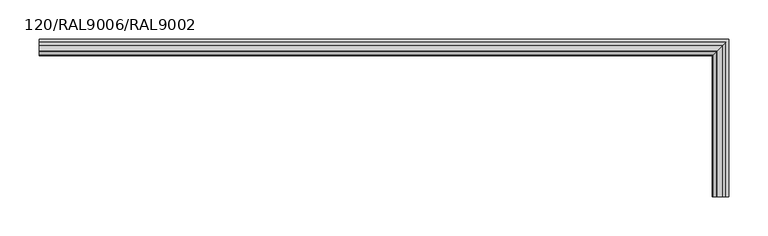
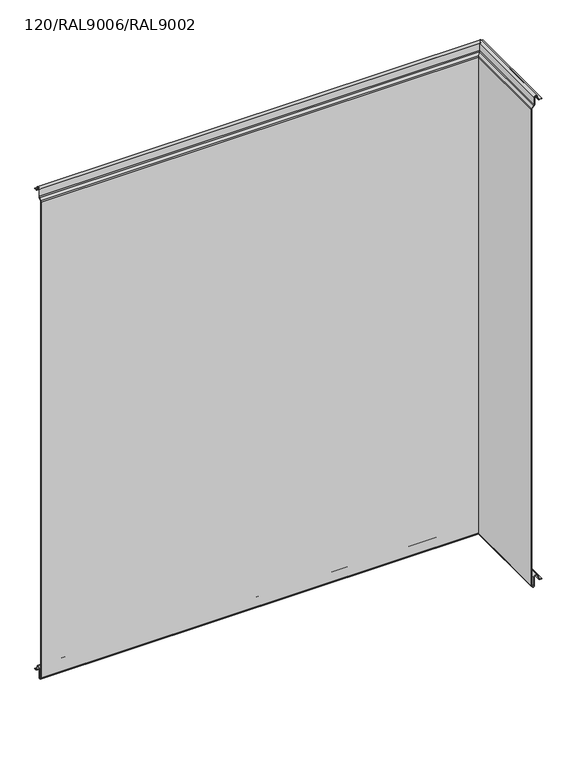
"""IFC4 building model written with IfcOpenShell, lengths in millimetres: plate geometry, TR_C_H_FTV_Corner_Tr_A : 120/RAL9006/RAL9002."""

from ifc_helpers import new_model, si_unit, frame, origin, place, context, project, spatial, polyline, circle_curve, ellipse_curve, source, transform, mapped, element, save
from ifc_brep_helpers import plane_surface, cylinder_surface, revolved_surface, advanced_brep


def plate_120_ral9006_ral9002_a21c830a(model_context):
    return source(origin(), model_context, "Body", "AdvancedBrep", [
        advanced_brep(
        [(391.0, -300.0, 1000.6000012), (386.8869672, -300.0, 1000.6000012), (383.1939382, -300.0, 1003.6988205), (382.4506252, -300.0, 1007.9143577), (376.0, -300.0, 1007.3500012), (376.0, -300.0, 992.6000012), (375.267767, -300.0, 990.8322342), (370.8786797, -300.0, 986.4431469), (370.0, -300.0, 984.3218266), (370.0, -300.0, -5.018628), (370.8054564, -300.0, -6.9631716), (372.6711418, -300.0, -8.8288571), (376.0, -300.0, -7.4499988), (376.0, -300.0, 10.1500012), (382.8475867, -300.0, 10.7490874), (383.914412, -300.0, 4.6988205), (387.6074411, -300.0, 1.6000012), (391.0, -300.0, 1.6000012), (391.0, -300.0, 2.4000012), (387.6074411, -300.0, 2.4000012), (384.7022582, -300.0, 4.837739), (383.635433, -300.0, 10.8880059), (375.2, -300.0, 10.1500012), (375.2, -300.0, -7.4499988), (373.2368272, -300.0, -8.2631716), (371.3711418, -300.0, -6.3974862), (370.8, -300.0, -5.018628), (370.8, -300.0, 984.3218266), (371.4443651, -300.0, 985.8774615), (375.8334524, -300.0, 990.2665488), (376.8, -300.0, 992.6000012), (376.8, -300.0, 1007.3500012), (381.662779, -300.0, 1007.7754392), (382.4060919, -300.0, 1003.559902), (386.8869672, -300.0, 999.8000012), (391.0, -300.0, 999.8000012), (383.1939382, -106.8060618, 1003.6988205), (386.8869672, -103.1130328, 1000.6000012), (-490.0, -103.1130328, 1000.6000012), (-490.0, -106.8060618, 1003.6988205), (382.4506252, -107.5493748, 1007.9143577), (-490.0, -107.5493748, 1007.9143577), (376.0, -114.0, 1007.3500012), (-490.0, -114.0, 1007.3500012), (376.0, -114.0, 992.6000012), (-490.0, -114.0, 992.6000012), (375.267767, -114.732233, 990.8322342), (-490.0, -114.732233, 990.8322342), (370.8786797, -119.1213203, 986.4431469), (-490.0, -119.1213203, 986.4431469), (370.0, -120.0, 984.3218266), (-490.0, -120.0, 984.3218266), (370.0, -120.0, -5.018628), (-490.0, -120.0, -5.018628), (370.8054564, -119.1945436, -6.9631716), (-490.0, -119.1945436, -6.9631716), (372.6711418, -117.3288582, -8.8288571), (-490.0, -117.3288582, -8.8288571), (376.0, -114.0, -7.4499988), (-490.0, -114.0, -7.4499988), (376.0, -114.0, 10.1500012), (-490.0, -114.0, 10.1500012), (382.8475867, -107.1524133, 10.7490874), (-490.0, -107.1524133, 10.7490874), (383.914412, -106.085588, 4.6988205), (-490.0, -106.085588, 4.6988205), (387.6074411, -102.3925589, 1.6000012), (-490.0, -102.3925589, 1.6000012), (391.0, -99.0, 2.4000012), (391.0, -99.0, 1.6000012), (-490.0, -99.0, 1.6000012), (-490.0, -99.0, 2.4000012), (384.7022582, -105.2977418, 4.837739), (387.6074411, -102.3925589, 2.4000012), (-490.0, -102.3925589, 2.4000012), (-490.0, -105.2977418, 4.837739), (383.635433, -106.364567, 10.8880059), (-490.0, -106.364567, 10.8880059), (375.2, -114.8, 10.1500012), (-490.0, -114.8, 10.1500012), (375.2, -114.8, -7.4499988), (-490.0, -114.8, -7.4499988), (373.2368272, -116.7631728, -8.2631716), (-490.0, -116.7631728, -8.2631716), (371.3711418, -118.6288582, -6.3974862), (-490.0, -118.6288582, -6.3974862), (370.8, -119.2, -5.018628), (-490.0, -119.2, -5.018628), (370.8, -119.2, 984.3218266), (-490.0, -119.2, 984.3218266), (371.4443651, -118.5556349, 985.8774615), (-490.0, -118.5556349, 985.8774615), (375.8334524, -114.1665476, 990.2665488), (-490.0, -114.1665476, 990.2665488), (376.8, -113.2, 992.6000012), (-490.0, -113.2, 992.6000012), (376.8, -113.2, 1007.3500012), (-490.0, -113.2, 1007.3500012), (381.662779, -108.337221, 1007.7754392), (-490.0, -108.337221, 1007.7754392), (382.4060919, -107.5939081, 1003.559902), (-490.0, -107.5939081, 1003.559902), (386.8869672, -103.1130328, 999.8000012), (-490.0, -103.1130328, 999.8000012), (391.0, -99.0, 1000.6000012), (391.0, -99.0, 999.8000012), (-490.0, -99.0, 999.8000012), (-490.0, -99.0, 1000.6000012)],
        [
            (0, 1),
            (1, 2, circle_curve(frame((386.8869672, -300.0, 1004.3500012), z_axis=(0.0, 1.0, 0.0), x_axis=(-1.0, 0.0, 0.0)), 3.75)),
            (2, 3),
            (3, 4, circle_curve(frame((379.25, -300.0, 1007.3500012), z_axis=(0.0, -1.0, 0.0), x_axis=(-1.0, 0.0, 0.0)), 3.25)),
            (4, 5),
            (5, 6, circle_curve(frame((373.5, -300.0, 992.6000012), z_axis=(0.0, 1.0, 0.0), x_axis=(-1.0, 0.0, 0.0)), 2.5)),
            (6, 7),
            (7, 8, circle_curve(frame((373.0, -300.0, 984.3218266), z_axis=(0.0, -1.0, 0.0), x_axis=(-1.0, 0.0, 0.0)), 3.0)),
            (8, 9),
            (9, 10, circle_curve(frame((372.75, -300.0, -5.018628), z_axis=(0.0, -1.0, 0.0), x_axis=(-1.0, 0.0, 0.0)), 2.75)),
            (10, 11),
            (11, 12, circle_curve(frame((374.05, -300.0, -7.4499988), z_axis=(0.0, -1.0, 0.0), x_axis=(-1.0, 0.0, 0.0)), 1.95)),
            (12, 13),
            (13, 14, circle_curve(frame((379.45, -300.0, 10.1500012), z_axis=(0.0, 1.0, 0.0), x_axis=(-1.0, 0.0, 0.0)), 3.45)),
            (14, 15),
            (15, 16, circle_curve(frame((387.6074411, -300.0, 5.3500012), z_axis=(0.0, -1.0, 0.0), x_axis=(-1.0, 0.0, 0.0)), 3.75)),
            (16, 17),
            (17, 18),
            (18, 19),
            (19, 20, circle_curve(frame((387.6074411, -300.0, 5.3500012), z_axis=(0.0, 1.0, 0.0), x_axis=(-1.0, 0.0, 0.0)), 2.95)),
            (20, 21),
            (21, 22, circle_curve(frame((379.45, -300.0, 10.1500012), z_axis=(0.0, -1.0, 0.0), x_axis=(-1.0, 0.0, 0.0)), 4.25)),
            (22, 23),
            (23, 24, circle_curve(frame((374.05, -300.0, -7.4499988), z_axis=(0.0, 1.0, 0.0), x_axis=(-1.0, 0.0, 0.0)), 1.15)),
            (24, 25),
            (25, 26, circle_curve(frame((372.75, -300.0, -5.018628), z_axis=(0.0, 1.0, 0.0), x_axis=(-1.0, 0.0, 0.0)), 1.95)),
            (26, 27),
            (27, 28, circle_curve(frame((373.0, -300.0, 984.3218266), z_axis=(0.0, 1.0, 0.0), x_axis=(-1.0, 0.0, 0.0)), 2.2)),
            (28, 29),
            (29, 30, circle_curve(frame((373.5, -300.0, 992.6000012), z_axis=(0.0, -1.0, 0.0), x_axis=(-1.0, 0.0, 0.0)), 3.3)),
            (30, 31),
            (31, 32, circle_curve(frame((379.25, -300.0, 1007.3500012), z_axis=(0.0, 1.0, 0.0), x_axis=(-1.0, 0.0, 0.0)), 2.45)),
            (32, 33),
            (33, 34, circle_curve(frame((386.8869672, -300.0, 1004.3500012), z_axis=(0.0, -1.0, 0.0), x_axis=(-1.0, 0.0, 0.0)), 4.55)),
            (34, 35),
            (35, 0),
            (36, 37, ellipse_curve(frame((386.8869672, -103.1130328, 1004.3500012), z_axis=(0.7071067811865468, -0.7071067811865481, 0.0), x_axis=(-0.7071067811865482, -0.7071067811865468, 0.0)), 5.3033009, 3.75)),
            (37, 38),
            (38, 39, circle_curve(frame((-490.0, -103.1130328, 1004.3500012), z_axis=(-1.0, 0.0, 0.0), x_axis=(0.0, -1.0, 0.0)), 3.75)),
            (39, 36),
            (40, 36),
            (39, 41),
            (41, 40),
            (42, 40, ellipse_curve(frame((379.25, -110.75, 1007.3500012), z_axis=(-0.7071067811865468, 0.7071067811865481, 0.0), x_axis=(0.7071067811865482, 0.7071067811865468, 0.0)), 4.5961941, 3.25)),
            (41, 43, circle_curve(frame((-490.0, -110.75, 1007.3500012), z_axis=(1.0, 0.0, 0.0), x_axis=(0.0, -1.0, 0.0)), 3.25)),
            (43, 42),
            (44, 42),
            (43, 45),
            (45, 44),
            (46, 44, ellipse_curve(frame((373.5, -116.5, 992.6000012), z_axis=(0.7071067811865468, -0.7071067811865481, 0.0), x_axis=(-0.7071067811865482, -0.7071067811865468, 0.0)), 3.5355339, 2.5)),
            (45, 47, circle_curve(frame((-490.0, -116.5, 992.6000012), z_axis=(-1.0, 0.0, 0.0), x_axis=(0.0, -1.0, 0.0)), 2.5)),
            (47, 46),
            (48, 46),
            (47, 49),
            (49, 48),
            (50, 48, ellipse_curve(frame((373.0, -117.0, 984.3218266), z_axis=(-0.7071067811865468, 0.7071067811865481, 0.0), x_axis=(0.7071067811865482, 0.7071067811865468, 0.0)), 4.2426407, 3.0)),
            (49, 51, circle_curve(frame((-490.0, -117.0, 984.3218266), z_axis=(1.0, 0.0, 0.0), x_axis=(0.0, -1.0, 0.0)), 3.0)),
            (51, 50),
            (52, 50),
            (51, 53),
            (53, 52),
            (54, 52, ellipse_curve(frame((372.75, -117.25, -5.018628), z_axis=(-0.7071067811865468, 0.7071067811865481, 0.0), x_axis=(0.7071067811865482, 0.7071067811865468, 0.0)), 3.8890873, 2.75)),
            (53, 55, circle_curve(frame((-490.0, -117.25, -5.018628), z_axis=(1.0, 0.0, 0.0), x_axis=(0.0, -1.0, 0.0)), 2.75)),
            (55, 54),
            (56, 54),
            (55, 57),
            (57, 56),
            (58, 56, ellipse_curve(frame((374.05, -115.95, -7.4499988), z_axis=(-0.7071067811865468, 0.7071067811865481, 0.0), x_axis=(0.7071067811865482, 0.7071067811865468, 0.0)), 2.7577164, 1.95)),
            (57, 59, circle_curve(frame((-490.0, -115.95, -7.4499988), z_axis=(1.0, 0.0, 0.0), x_axis=(0.0, -1.0, 0.0)), 1.95)),
            (59, 58),
            (60, 58),
            (59, 61),
            (61, 60),
            (62, 60, ellipse_curve(frame((379.45, -110.55, 10.1500012), z_axis=(0.7071067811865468, -0.7071067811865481, 0.0), x_axis=(-0.7071067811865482, -0.7071067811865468, 0.0)), 4.8790368, 3.45)),
            (61, 63, circle_curve(frame((-490.0, -110.55, 10.1500012), z_axis=(-1.0, 0.0, 0.0), x_axis=(0.0, -1.0, 0.0)), 3.45)),
            (63, 62),
            (64, 62),
            (63, 65),
            (65, 64),
            (66, 64, ellipse_curve(frame((387.6074411, -102.3925589, 5.3500012), z_axis=(-0.7071067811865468, 0.7071067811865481, 0.0), x_axis=(0.7071067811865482, 0.7071067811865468, 0.0)), 5.3033009, 3.75)),
            (65, 67, circle_curve(frame((-490.0, -102.3925589, 5.3500012), z_axis=(1.0, 0.0, 0.0), x_axis=(0.0, -1.0, 0.0)), 3.75)),
            (67, 66),
            (68, 69),
            (69, 70),
            (70, 71),
            (71, 68),
            (72, 73, ellipse_curve(frame((387.6074411, -102.3925589, 5.3500012), z_axis=(0.7071067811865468, -0.7071067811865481, 0.0), x_axis=(-0.7071067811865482, -0.7071067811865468, 0.0)), 4.17193, 2.95)),
            (73, 74),
            (74, 75, circle_curve(frame((-490.0, -102.3925589, 5.3500012), z_axis=(-1.0, 0.0, 0.0), x_axis=(0.0, -1.0, 0.0)), 2.95)),
            (75, 72),
            (76, 72),
            (75, 77),
            (77, 76),
            (78, 76, ellipse_curve(frame((379.45, -110.55, 10.1500012), z_axis=(-0.7071067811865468, 0.7071067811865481, 0.0), x_axis=(0.7071067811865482, 0.7071067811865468, 0.0)), 6.0104076, 4.25)),
            (77, 79, circle_curve(frame((-490.0, -110.55, 10.1500012), z_axis=(1.0, 0.0, 0.0), x_axis=(0.0, -1.0, 0.0)), 4.25)),
            (79, 78),
            (80, 78),
            (79, 81),
            (81, 80),
            (82, 80, ellipse_curve(frame((374.05, -115.95, -7.4499988), z_axis=(0.7071067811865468, -0.7071067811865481, 0.0), x_axis=(-0.7071067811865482, -0.7071067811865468, 0.0)), 1.6263456, 1.15)),
            (81, 83, circle_curve(frame((-490.0, -115.95, -7.4499988), z_axis=(-1.0, 0.0, 0.0), x_axis=(0.0, -1.0, 0.0)), 1.15)),
            (83, 82),
            (84, 82),
            (83, 85),
            (85, 84),
            (86, 84, ellipse_curve(frame((372.75, -117.25, -5.018628), z_axis=(0.7071067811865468, -0.7071067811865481, 0.0), x_axis=(-0.7071067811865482, -0.7071067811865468, 0.0)), 2.7577164, 1.95)),
            (85, 87, circle_curve(frame((-490.0, -117.25, -5.018628), z_axis=(-1.0, 0.0, 0.0), x_axis=(0.0, -1.0, 0.0)), 1.95)),
            (87, 86),
            (88, 86),
            (87, 89),
            (89, 88),
            (90, 88, ellipse_curve(frame((373.0, -117.0, 984.3218266), z_axis=(0.7071067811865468, -0.7071067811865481, 0.0), x_axis=(-0.7071067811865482, -0.7071067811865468, 0.0)), 3.1112698, 2.2)),
            (89, 91, circle_curve(frame((-490.0, -117.0, 984.3218266), z_axis=(-1.0, 0.0, 0.0), x_axis=(0.0, -1.0, 0.0)), 2.2)),
            (91, 90),
            (92, 90),
            (91, 93),
            (93, 92),
            (94, 92, ellipse_curve(frame((373.5, -116.5, 992.6000012), z_axis=(-0.7071067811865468, 0.7071067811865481, 0.0), x_axis=(0.7071067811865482, 0.7071067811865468, 0.0)), 4.6669048, 3.3)),
            (93, 95, circle_curve(frame((-490.0, -116.5, 992.6000012), z_axis=(1.0, 0.0, 0.0), x_axis=(0.0, -1.0, 0.0)), 3.3)),
            (95, 94),
            (96, 94),
            (95, 97),
            (97, 96),
            (98, 96, ellipse_curve(frame((379.25, -110.75, 1007.3500012), z_axis=(0.7071067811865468, -0.7071067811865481, 0.0), x_axis=(-0.7071067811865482, -0.7071067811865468, 0.0)), 3.4648232, 2.45)),
            (97, 99, circle_curve(frame((-490.0, -110.75, 1007.3500012), z_axis=(-1.0, 0.0, 0.0), x_axis=(0.0, -1.0, 0.0)), 2.45)),
            (99, 98),
            (100, 98),
            (99, 101),
            (101, 100),
            (102, 100, ellipse_curve(frame((386.8869672, -103.1130328, 1004.3500012), z_axis=(-0.7071067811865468, 0.7071067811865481, 0.0), x_axis=(0.7071067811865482, 0.7071067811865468, 0.0)), 6.4346717, 4.55)),
            (101, 103, circle_curve(frame((-490.0, -103.1130328, 1004.3500012), z_axis=(1.0, 0.0, 0.0), x_axis=(0.0, -1.0, 0.0)), 4.55)),
            (103, 102),
            (104, 105),
            (105, 106),
            (106, 107),
            (107, 104),
            (106, 103),
            (74, 71),
            (70, 67),
            (38, 107),
            (0, 104),
            (37, 1),
            (36, 2),
            (40, 3),
            (42, 4),
            (44, 5),
            (46, 6),
            (48, 7),
            (50, 8),
            (52, 9),
            (54, 10),
            (56, 11),
            (58, 12),
            (60, 13),
            (62, 14),
            (64, 15),
            (66, 16),
            (69, 17),
            (68, 18),
            (73, 19),
            (72, 20),
            (76, 21),
            (78, 22),
            (80, 23),
            (82, 24),
            (84, 25),
            (86, 26),
            (88, 27),
            (90, 28),
            (92, 29),
            (94, 30),
            (96, 31),
            (98, 32),
            (100, 33),
            (102, 34),
            (105, 35),
        ],
        [
            plane_surface(frame((490.0, -300.0, 0.0), z_axis=(0.0, -1.0, 0.0), x_axis=(0.0, 0.0, 1.0))),
            revolved_surface(polyline([(-490.0, -106.8630328, 1004.3500012), (390.63696722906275, -106.8630328, 1004.3500012)]), (490.0, -103.1130328, 1004.3500012), (-1.0, 0.0, 0.0)),
            plane_surface(frame((383.1939382, -106.8060618, 1003.6988205), z_axis=(0.0, 0.9848077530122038, 0.17364817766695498), x_axis=(-1.0, 0.0, 0.0))),
            cylinder_surface(frame((490.0, -110.75, 1007.3500012), z_axis=(1.0, 0.0, 0.0), x_axis=(0.0, -1.0, 0.0)), 3.25),
            plane_surface(frame((376.0, -114.0, 1007.3500012), z_axis=(0.0, -1.0, 0.0), x_axis=(-1.0, 0.0, 0.0))),
            revolved_surface(polyline([(-490.0, -119.0, 992.6000012), (376.0, -119.0, 992.6000012)]), (490.0, -116.5, 992.6000012), (-1.0, 0.0, 0.0)),
            plane_surface(frame((375.267767, -114.732233, 990.8322342), z_axis=(0.0, -0.7071067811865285, 0.7071067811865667), x_axis=(-1.0, 0.0, 0.0))),
            cylinder_surface(frame((490.0, -117.0, 984.3218266), z_axis=(1.0, 0.0, 0.0), x_axis=(0.0, -1.0, 0.0)), 3.0),
            plane_surface(frame((370.0, -120.0, 984.3218266), z_axis=(0.0, -1.0, 0.0), x_axis=(-1.0, 0.0, 0.0))),
            cylinder_surface(frame((490.0, -117.25, -5.018628), z_axis=(1.0, 0.0, 0.0), x_axis=(0.0, -1.0, 0.0)), 2.75),
            plane_surface(frame((370.8054564, -119.1945436, -6.9631716), z_axis=(0.0, -0.7071067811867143, -0.7071067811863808), x_axis=(-1.0, 0.0, 0.0))),
            cylinder_surface(frame((490.0, -115.95, -7.4499988), z_axis=(1.0, 0.0, 0.0), x_axis=(0.0, -1.0, 0.0)), 1.95),
            plane_surface(frame((376.0, -114.0, -7.4499988), z_axis=(0.0, 1.0, 0.0), x_axis=(-1.0, 0.0, 0.0))),
            revolved_surface(polyline([(-490.0, -114.0, 10.1500012), (382.90000000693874, -114.0, 10.1500012)]), (490.0, -110.55, 10.1500012), (-1.0, 0.0, 0.0)),
            plane_surface(frame((382.8475867, -107.1524133, 10.7490874), z_axis=(0.0, -0.9848077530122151, -0.1736481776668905), x_axis=(-1.0, 0.0, 0.0))),
            cylinder_surface(frame((490.0, -102.3925589, 5.3500012), z_axis=(1.0, 0.0, 0.0), x_axis=(0.0, -1.0, 0.0)), 3.75),
            plane_surface(frame((391.0, -99.0, 1.6000012), z_axis=(0.0, 1.0, 0.0), x_axis=(-1.0, 0.0, 0.0))),
            revolved_surface(polyline([(-490.0, -105.3425589, 5.3500012), (390.5574410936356, -105.3425589, 5.3500012)]), (490.0, -102.3925589, 5.3500012), (-1.0, 0.0, 0.0)),
            plane_surface(frame((384.7022582, -105.2977418, 4.837739), z_axis=(0.0, 0.9848077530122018, 0.1736481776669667), x_axis=(-1.0, 0.0, 0.0))),
            cylinder_surface(frame((490.0, -110.55, 10.1500012), z_axis=(1.0, 0.0, 0.0), x_axis=(0.0, -1.0, 0.0)), 4.25),
            plane_surface(frame((375.2, -114.8, 10.1500012), z_axis=(0.0, -1.0, 0.0), x_axis=(-1.0, 0.0, 0.0))),
            revolved_surface(polyline([(-490.0, -117.10000000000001, -7.4499988), (375.2000000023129, -117.10000000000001, -7.4499988)]), (490.0, -115.95, -7.4499988), (-1.0, 0.0, 0.0)),
            plane_surface(frame((373.2368272, -116.7631728, -8.2631716), z_axis=(0.0, 0.7071067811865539, 0.7071067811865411), x_axis=(-1.0, 0.0, 0.0))),
            revolved_surface(polyline([(-490.0, -119.2, -5.018628), (374.6999999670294, -119.2, -5.018628)]), (490.0, -117.25, -5.018628), (-1.0, 0.0, 0.0)),
            plane_surface(frame((370.8, -119.2, -5.018628), z_axis=(0.0, 1.0, 0.0), x_axis=(-1.0, 0.0, 0.0))),
            revolved_surface(polyline([(-490.0, -119.2, 984.3218266), (375.1999999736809, -119.2, 984.3218266)]), (490.0, -117.0, 984.3218266), (-1.0, 0.0, 0.0)),
            plane_surface(frame((371.4443651, -118.5556349, 985.8774615), z_axis=(0.0, 0.7071067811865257, -0.7071067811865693), x_axis=(-1.0, 0.0, 0.0))),
            cylinder_surface(frame((490.0, -116.5, 992.6000012), z_axis=(1.0, 0.0, 0.0), x_axis=(0.0, -1.0, 0.0)), 3.3),
            plane_surface(frame((376.8, -113.2, 992.6000012), z_axis=(0.0, 1.0, 0.0), x_axis=(-1.0, 0.0, 0.0))),
            revolved_surface(polyline([(-490.0, -113.2, 1007.3500012), (381.69999998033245, -113.2, 1007.3500012)]), (490.0, -110.75, 1007.3500012), (-1.0, 0.0, 0.0)),
            plane_surface(frame((381.662779, -108.337221, 1007.7754392), z_axis=(0.0, -0.9848077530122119, -0.173648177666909), x_axis=(-1.0, 0.0, 0.0))),
            cylinder_surface(frame((490.0, -103.1130328, 1004.3500012), z_axis=(1.0, 0.0, 0.0), x_axis=(0.0, -1.0, 0.0)), 4.55),
            plane_surface(frame((391.0, -99.0, 999.8000012), z_axis=(0.0, 1.0, 0.0), x_axis=(-1.0, 0.0, 0.0))),
            plane_surface(frame((-490.0, 0.0, 0.0), z_axis=(-1.0, 0.0, 0.0), x_axis=(0.0, 0.0, 1.0))),
            plane_surface(frame((391.0, -300.0, 1000.6000012), z_axis=(0.0, 0.0, 1.0), x_axis=(0.0, 1.0, 0.0))),
            revolved_surface(polyline([(383.1369672, -99.36303277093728, 1004.3500012), (383.1369672, -300.0, 1004.3500012)]), (386.8869672, -300.0, 1004.3500012), (0.0, 1.0, 0.0)),
            plane_surface(frame((383.1939382, -300.0, 1003.6988205), z_axis=(0.9848077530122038, 0.0, 0.17364817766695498), x_axis=(0.0, 1.0, 0.0))),
            cylinder_surface(frame((379.25, -300.0, 1007.3500012), z_axis=(0.0, -1.0, 0.0), x_axis=(-1.0, 0.0, 0.0)), 3.25),
            plane_surface(frame((376.0, -300.0, 1007.3500012), z_axis=(-1.0, 0.0, 0.0), x_axis=(0.0, 1.0, 0.0))),
            revolved_surface(polyline([(371.0, -114.0, 992.6000012), (371.0, -300.0, 992.6000012)]), (373.5, -300.0, 992.6000012), (0.0, 1.0, 0.0)),
            plane_surface(frame((375.267767, -300.0, 990.8322342), z_axis=(-0.7071067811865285, 0.0, 0.7071067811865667), x_axis=(0.0, 1.0, 0.0))),
            cylinder_surface(frame((373.0, -300.0, 984.3218266), z_axis=(0.0, -1.0, 0.0), x_axis=(-1.0, 0.0, 0.0)), 3.0),
            plane_surface(frame((370.0, -300.0, 984.3218266), z_axis=(-1.0, 0.0, 0.0), x_axis=(0.0, 1.0, 0.0))),
            cylinder_surface(frame((372.75, -300.0, -5.018628), z_axis=(0.0, -1.0, 0.0), x_axis=(-1.0, 0.0, 0.0)), 2.75),
            plane_surface(frame((370.8054564, -300.0, -6.9631716), z_axis=(-0.7071067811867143, 0.0, -0.7071067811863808), x_axis=(0.0, 1.0, 0.0))),
            cylinder_surface(frame((374.05, -300.0, -7.4499988), z_axis=(0.0, -1.0, 0.0), x_axis=(-1.0, 0.0, 0.0)), 1.95),
            plane_surface(frame((376.0, -300.0, -7.4499988), z_axis=(1.0, 0.0, 0.0), x_axis=(0.0, 1.0, 0.0))),
            revolved_surface(polyline([(376.0, -107.09999999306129, 10.1500012), (376.0, -300.0, 10.1500012)]), (379.45, -300.0, 10.1500012), (0.0, 1.0, 0.0)),
            plane_surface(frame((382.8475867, -300.0, 10.7490874), z_axis=(-0.9848077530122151, 0.0, -0.1736481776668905), x_axis=(0.0, 1.0, 0.0))),
            cylinder_surface(frame((387.6074411, -300.0, 5.3500012), z_axis=(0.0, -1.0, 0.0), x_axis=(-1.0, 0.0, 0.0)), 3.75),
            plane_surface(frame((387.6074411, -300.0, 1.6000012), z_axis=(0.0, 0.0, -1.0), x_axis=(0.0, 1.0, 0.0))),
            plane_surface(frame((391.0, -300.0, 1.6000012), z_axis=(1.0, 0.0, 0.0), x_axis=(0.0, 1.0, 0.0))),
            plane_surface(frame((391.0, -300.0, 2.4000012), z_axis=(0.0, 0.0, 1.0), x_axis=(0.0, 1.0, 0.0))),
            revolved_surface(polyline([(384.6574411, -99.44255890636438, 5.3500012), (384.6574411, -300.0, 5.3500012)]), (387.6074411, -300.0, 5.3500012), (0.0, 1.0, 0.0)),
            plane_surface(frame((384.7022582, -300.0, 4.837739), z_axis=(0.9848077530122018, 0.0, 0.1736481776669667), x_axis=(0.0, 1.0, 0.0))),
            cylinder_surface(frame((379.45, -300.0, 10.1500012), z_axis=(0.0, -1.0, 0.0), x_axis=(-1.0, 0.0, 0.0)), 4.25),
            plane_surface(frame((375.2, -300.0, 10.1500012), z_axis=(-1.0, 0.0, 0.0), x_axis=(0.0, 1.0, 0.0))),
            revolved_surface(polyline([(372.90000000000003, -114.79999999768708, -7.4499988), (372.90000000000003, -300.0, -7.4499988)]), (374.05, -300.0, -7.4499988), (0.0, 1.0, 0.0)),
            plane_surface(frame((373.2368272, -300.0, -8.2631716), z_axis=(0.7071067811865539, 0.0, 0.7071067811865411), x_axis=(0.0, 1.0, 0.0))),
            revolved_surface(polyline([(370.8, -115.30000003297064, -5.018628), (370.8, -300.0, -5.018628)]), (372.75, -300.0, -5.018628), (0.0, 1.0, 0.0)),
            plane_surface(frame((370.8, -300.0, -5.018628), z_axis=(1.0, 0.0, 0.0), x_axis=(0.0, 1.0, 0.0))),
            revolved_surface(polyline([(370.8, -114.80000002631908, 984.3218266), (370.8, -300.0, 984.3218266)]), (373.0, -300.0, 984.3218266), (0.0, 1.0, 0.0)),
            plane_surface(frame((371.4443651, -300.0, 985.8774615), z_axis=(0.7071067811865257, 0.0, -0.7071067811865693), x_axis=(0.0, 1.0, 0.0))),
            cylinder_surface(frame((373.5, -300.0, 992.6000012), z_axis=(0.0, -1.0, 0.0), x_axis=(-1.0, 0.0, 0.0)), 3.3),
            plane_surface(frame((376.8, -300.0, 992.6000012), z_axis=(1.0, 0.0, 0.0), x_axis=(0.0, 1.0, 0.0))),
            revolved_surface(polyline([(376.8, -108.30000001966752, 1007.3500012), (376.8, -300.0, 1007.3500012)]), (379.25, -300.0, 1007.3500012), (0.0, 1.0, 0.0)),
            plane_surface(frame((381.662779, -300.0, 1007.7754392), z_axis=(-0.9848077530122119, 0.0, -0.173648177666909), x_axis=(0.0, 1.0, 0.0))),
            cylinder_surface(frame((386.8869672, -300.0, 1004.3500012), z_axis=(0.0, -1.0, 0.0), x_axis=(-1.0, 0.0, 0.0)), 4.55),
            plane_surface(frame((386.8869672, -300.0, 999.8000012), z_axis=(0.0, 0.0, -1.0), x_axis=(0.0, 1.0, 0.0))),
            plane_surface(frame((391.0, -300.0, 999.8000012), z_axis=(1.0, 0.0, 0.0), x_axis=(0.0, 1.0, 0.0))),
        ],
        [
            (0, [[1, 2, 3, 4, 5, 6, 7, 8, 9, 10, 11, 12, 13, 14, 15, 16, 17, 18, 19, 20, 21, 22, 23, 24, 25, 26, 27, 28, 29, 30, 31, 32, 33, 34, 35, 36]]),
            (1, [[37, 38, 39, 40]]),
            (2, [[41, -40, 42, 43]]),
            (3, [[44, -43, 45, 46]]),
            (4, [[47, -46, 48, 49]]),
            (5, [[50, -49, 51, 52]]),
            (6, [[53, -52, 54, 55]]),
            (7, [[56, -55, 57, 58]]),
            (8, [[59, -58, 60, 61]]),
            (9, [[62, -61, 63, 64]]),
            (10, [[65, -64, 66, 67]]),
            (11, [[68, -67, 69, 70]]),
            (12, [[71, -70, 72, 73]]),
            (13, [[74, -73, 75, 76]]),
            (14, [[77, -76, 78, 79]]),
            (15, [[80, -79, 81, 82]]),
            (16, [[83, 84, 85, 86]]),
            (17, [[87, 88, 89, 90]]),
            (18, [[91, -90, 92, 93]]),
            (19, [[94, -93, 95, 96]]),
            (20, [[97, -96, 98, 99]]),
            (21, [[100, -99, 101, 102]]),
            (22, [[103, -102, 104, 105]]),
            (23, [[106, -105, 107, 108]]),
            (24, [[109, -108, 110, 111]]),
            (25, [[112, -111, 113, 114]]),
            (26, [[115, -114, 116, 117]]),
            (27, [[118, -117, 119, 120]]),
            (28, [[121, -120, 122, 123]]),
            (29, [[124, -123, 125, 126]]),
            (30, [[127, -126, 128, 129]]),
            (31, [[130, -129, 131, 132]]),
            (32, [[133, 134, 135, 136]]),
            (33, [[-135, 137, -131, -128, -125, -122, -119, -116, -113, -110, -107, -104, -101, -98, -95, -92, -89, 138, -85, 139, -81, -78, -75, -72, -69, -66, -63, -60, -57, -54, -51, -48, -45, -42, -39, 140]]),
            (34, [[-1, 141, -136, -140, -38, 142]]),
            (35, [[-2, -142, -37, 143]]),
            (36, [[-3, -143, -41, 144]]),
            (37, [[-4, -144, -44, 145]]),
            (38, [[-5, -145, -47, 146]]),
            (39, [[-6, -146, -50, 147]]),
            (40, [[-7, -147, -53, 148]]),
            (41, [[-8, -148, -56, 149]]),
            (42, [[-9, -149, -59, 150]]),
            (43, [[-10, -150, -62, 151]]),
            (44, [[-11, -151, -65, 152]]),
            (45, [[-12, -152, -68, 153]]),
            (46, [[-13, -153, -71, 154]]),
            (47, [[-14, -154, -74, 155]]),
            (48, [[-15, -155, -77, 156]]),
            (49, [[-16, -156, -80, 157]]),
            (50, [[-17, -157, -82, -139, -84, 158]]),
            (51, [[-18, -158, -83, 159]]),
            (52, [[-19, -159, -86, -138, -88, 160]]),
            (53, [[-20, -160, -87, 161]]),
            (54, [[-21, -161, -91, 162]]),
            (55, [[-22, -162, -94, 163]]),
            (56, [[-23, -163, -97, 164]]),
            (57, [[-24, -164, -100, 165]]),
            (58, [[-25, -165, -103, 166]]),
            (59, [[-26, -166, -106, 167]]),
            (60, [[-27, -167, -109, 168]]),
            (61, [[-28, -168, -112, 169]]),
            (62, [[-29, -169, -115, 170]]),
            (63, [[-30, -170, -118, 171]]),
            (64, [[-31, -171, -121, 172]]),
            (65, [[-32, -172, -124, 173]]),
            (66, [[-33, -173, -127, 174]]),
            (67, [[-34, -174, -130, 175]]),
            (68, [[-35, -175, -132, -137, -134, 176]]),
            (69, [[-36, -176, -133, -141]]),
        ],
    ),
    ])


if __name__ == "__main__":
    model = new_model("IFC4")
    model_context = context("Model", 3, world=origin())
    ifc_project = project(units=[si_unit("LENGTHUNIT", "METRE", prefix="MILLI")], contexts=[model_context])
    site = spatial("IfcSite", under=ifc_project)
    building = spatial("IfcBuilding", under=site)
    placement = place(None, origin())
    plate_120_ral9006_ral9002_shape = plate_120_ral9006_ral9002_a21c830a(model_context)
    element("IfcPlate", 1, ObjectType="TR_C_H_FTV_Corner_Tr_A : 120/RAL9006/RAL9002", at=placement, inside=building, context=model_context, shape_type="MappedRepresentation", body=[
        mapped(plate_120_ral9006_ral9002_shape, transform((0.0, 0.0, 0.0), x_axis=(1.0, 0.0, 0.0), y_axis=(0.0, 1.0, 0.0), z_axis=(0.0, 0.0, 1.0))),
    ])
    save(model, "model.ifc")
